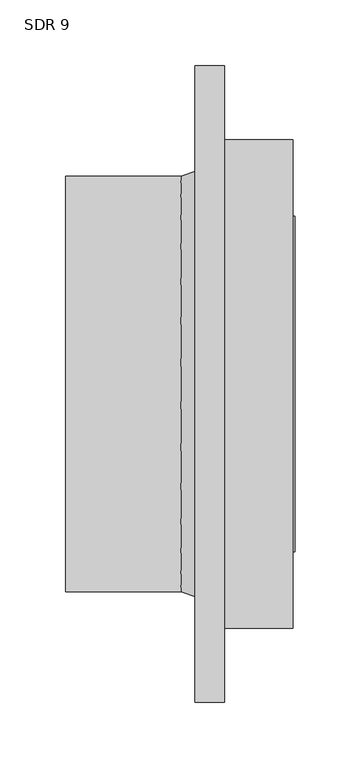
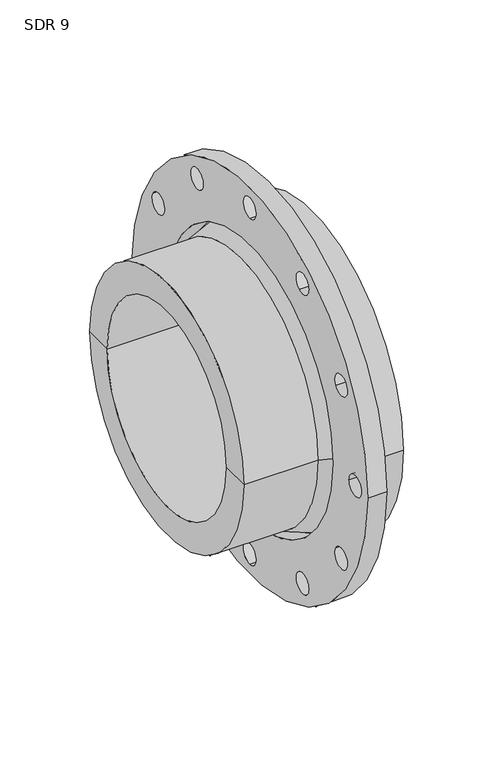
"""IFC4 building model written with IfcOpenShell, lengths in millimetres: valve geometry, Aquatherm - Flange Adapter Butt-Weld : SDR 9."""

from ifc_helpers import new_model, si_unit, point, frame, frame_2d, origin, origin_2d, place, context, project, spatial, polyline, circle_curve, trimmed, segment, composite_curve, outline, extrude, source, transform, mapped, element, save
from ifc_brep_helpers import plane_surface, cylinder_surface, revolved_surface, advanced_brep


def sdr_9_f56acaa7(model_context):
    return source(origin(), model_context, "Body", "SolidModel", [
        extrude(outline(composite_curve([segment(trimmed(circle_curve(origin_2d(), 241.3), [point((-241.3, 0.0))], [point((241.3, 0.0))], False, "CARTESIAN"), True, "CONTINUOUS"), segment(trimmed(circle_curve(origin_2d(), 241.3), [point((241.3, 0.0))], [point((-241.3, 0.0))], False, "CARTESIAN"), True, "CONTINUOUS")], self_intersect=False), holes=[composite_curve([segment(trimmed(circle_curve(origin_2d(), 170.18), [point((-170.18, 0.0))], [point((170.18, 0.0))], True, "CARTESIAN"), True, "CONTINUOUS"), segment(trimmed(circle_curve(origin_2d(), 170.18), [point((170.18, 0.0))], [point((-170.18, 0.0))], True, "CARTESIAN"), True, "CONTINUOUS")], self_intersect=False), composite_curve([segment(trimmed(circle_curve(frame_2d((215.9, 0.0)), 12.7), [point((203.2, 0.0))], [point((228.6, 0.0))], True, "CARTESIAN"), True, "CONTINUOUS"), segment(trimmed(circle_curve(frame_2d((215.9, 0.0)), 12.7), [point((228.6, 0.0))], [point((203.2, 0.0))], True, "CARTESIAN"), True, "CONTINUOUS")], self_intersect=False), composite_curve([segment(trimmed(circle_curve(frame_2d((186.9748847, -107.95)), 12.7), [point((175.976362, -101.6))], [point((197.9734073, -114.3))], True, "CARTESIAN"), True, "CONTINUOUS"), segment(trimmed(circle_curve(frame_2d((186.9748847, -107.95)), 12.7), [point((197.9734073, -114.3))], [point((175.976362, -101.6))], True, "CARTESIAN"), True, "CONTINUOUS")], self_intersect=False), composite_curve([segment(trimmed(circle_curve(frame_2d((186.9748847, 107.95)), 12.7), [point((175.976362, 101.6))], [point((197.9734073, 114.3))], True, "CARTESIAN"), True, "CONTINUOUS"), segment(trimmed(circle_curve(frame_2d((186.9748847, 107.95)), 12.7), [point((197.9734073, 114.3))], [point((175.976362, 101.6))], True, "CARTESIAN"), True, "CONTINUOUS")], self_intersect=False), composite_curve([segment(trimmed(circle_curve(frame_2d((107.95, 186.9748847)), 12.7), [point((101.6, 175.976362))], [point((114.3, 197.9734073))], True, "CARTESIAN"), True, "CONTINUOUS"), segment(trimmed(circle_curve(frame_2d((107.95, 186.9748847)), 12.7), [point((114.3, 197.9734073))], [point((101.6, 175.976362))], True, "CARTESIAN"), True, "CONTINUOUS")], self_intersect=False), composite_curve([segment(trimmed(circle_curve(frame_2d((0.0, 215.9)), 12.7), [point((0.0, 203.2))], [point((0.0, 228.6))], True, "CARTESIAN"), True, "CONTINUOUS"), segment(trimmed(circle_curve(frame_2d((0.0, 215.9)), 12.7), [point((0.0, 228.6))], [point((0.0, 203.2))], True, "CARTESIAN"), True, "CONTINUOUS")], self_intersect=False), composite_curve([segment(trimmed(circle_curve(frame_2d((-107.95, 186.9748847)), 12.7), [point((-101.6, 175.976362))], [point((-114.3, 197.9734073))], True, "CARTESIAN"), True, "CONTINUOUS"), segment(trimmed(circle_curve(frame_2d((-107.95, 186.9748847)), 12.7), [point((-114.3, 197.9734073))], [point((-101.6, 175.976362))], True, "CARTESIAN"), True, "CONTINUOUS")], self_intersect=False), composite_curve([segment(trimmed(circle_curve(frame_2d((-186.9748847, 107.95)), 12.7), [point((-175.976362, 101.6))], [point((-197.9734073, 114.3))], True, "CARTESIAN"), True, "CONTINUOUS"), segment(trimmed(circle_curve(frame_2d((-186.9748847, 107.95)), 12.7), [point((-197.9734073, 114.3))], [point((-175.976362, 101.6))], True, "CARTESIAN"), True, "CONTINUOUS")], self_intersect=False), composite_curve([segment(trimmed(circle_curve(frame_2d((-215.9, 0.0)), 12.7), [point((-203.2, 0.0))], [point((-228.6, 0.0))], True, "CARTESIAN"), True, "CONTINUOUS"), segment(trimmed(circle_curve(frame_2d((-215.9, 0.0)), 12.7), [point((-228.6, 0.0))], [point((-203.2, 0.0))], True, "CARTESIAN"), True, "CONTINUOUS")], self_intersect=False), composite_curve([segment(trimmed(circle_curve(frame_2d((-186.9748847, -107.95)), 12.7), [point((-175.976362, -101.6))], [point((-197.9734073, -114.3))], True, "CARTESIAN"), True, "CONTINUOUS"), segment(trimmed(circle_curve(frame_2d((-186.9748847, -107.95)), 12.7), [point((-197.9734073, -114.3))], [point((-175.976362, -101.6))], True, "CARTESIAN"), True, "CONTINUOUS")], self_intersect=False), composite_curve([segment(trimmed(circle_curve(frame_2d((-107.95, -186.9748847)), 12.7), [point((-101.6, -175.976362))], [point((-114.3, -197.9734073))], True, "CARTESIAN"), True, "CONTINUOUS"), segment(trimmed(circle_curve(frame_2d((-107.95, -186.9748847)), 12.7), [point((-114.3, -197.9734073))], [point((-101.6, -175.976362))], True, "CARTESIAN"), True, "CONTINUOUS")], self_intersect=False), composite_curve([segment(trimmed(circle_curve(frame_2d((0.0, -215.9)), 12.7), [point((0.0, -203.2))], [point((0.0, -228.6))], True, "CARTESIAN"), True, "CONTINUOUS"), segment(trimmed(circle_curve(frame_2d((0.0, -215.9)), 12.7), [point((0.0, -228.6))], [point((0.0, -203.2))], True, "CARTESIAN"), True, "CONTINUOUS")], self_intersect=False), composite_curve([segment(trimmed(circle_curve(frame_2d((107.95, -186.9748847)), 12.7), [point((101.6, -175.976362))], [point((114.3, -197.9734073))], True, "CARTESIAN"), True, "CONTINUOUS"), segment(trimmed(circle_curve(frame_2d((107.95, -186.9748847)), 12.7), [point((114.3, -197.9734073))], [point((101.6, -175.976362))], True, "CARTESIAN"), True, "CONTINUOUS")], self_intersect=False)]), frame((-22.352, 0.0, 0.0), z_axis=(1.0, 0.0, 0.0), x_axis=(0.0, 1.0, 0.0)), (0.0, 0.0, 1.0), 22.352),
        advanced_brep(
        [(52.07, 185.42, 0.0), (52.07, -185.42, 0.0), (0.0, -185.42, 0.0), (0.0, 185.42, 0.0), (53.6575, 122.174, 0.0), (53.6575, -122.174, 0.0), (53.6575, -127.254, 0.0), (53.6575, 127.254, 0.0), (-120.396, 122.174, 0.0), (-120.396, -122.174, 0.0), (-120.396, 157.48, 0.0), (-120.396, -157.48, 0.0), (-33.02, 157.48, 0.0), (-33.02, -157.48, 0.0), (0.0, -168.91, 0.0), (0.0, 168.91, 0.0), (52.07, 127.254, 0.0), (52.07, -127.254, 0.0)],
        [
            (0, 1, circle_curve(frame((52.07, 0.0, 0.0), z_axis=(-1.0, 0.0, 0.0), x_axis=(0.0, -1.0, 0.0)), 185.42)),
            (1, 2),
            (2, 3, circle_curve(frame((0.0, 0.0, 0.0), z_axis=(1.0, 0.0, 0.0), x_axis=(0.0, -1.0, 0.0)), 185.42)),
            (3, 0),
            (1, 0, circle_curve(frame((52.07, 0.0, 0.0), z_axis=(-1.0, 0.0, 0.0), x_axis=(0.0, -1.0, 0.0)), 185.42)),
            (3, 2, circle_curve(frame((0.0, 0.0, 0.0), z_axis=(1.0, 0.0, 0.0), x_axis=(0.0, -1.0, 0.0)), 185.42)),
            (4, 5, circle_curve(frame((53.6575, 0.0, 0.0), z_axis=(-1.0, 0.0, 0.0), x_axis=(0.0, -1.0, 0.0)), 122.174)),
            (5, 6),
            (6, 7, circle_curve(frame((53.6575, 0.0, 0.0), z_axis=(1.0, 0.0, 0.0), x_axis=(0.0, -1.0, 0.0)), 127.254)),
            (7, 4),
            (5, 4, circle_curve(frame((53.6575, 0.0, 0.0), z_axis=(-1.0, 0.0, 0.0), x_axis=(0.0, -1.0, 0.0)), 122.174)),
            (7, 6, circle_curve(frame((53.6575, 0.0, 0.0), z_axis=(1.0, 0.0, 0.0), x_axis=(0.0, -1.0, 0.0)), 127.254)),
            (8, 9, circle_curve(frame((-120.396, 0.0, 0.0), z_axis=(-1.0, 0.0, 0.0), x_axis=(0.0, -1.0, 0.0)), 122.174)),
            (9, 5),
            (4, 8),
            (9, 8, circle_curve(frame((-120.396, 0.0, 0.0), z_axis=(-1.0, 0.0, 0.0), x_axis=(0.0, -1.0, 0.0)), 122.174)),
            (10, 11, circle_curve(frame((-120.396, 0.0, 0.0), z_axis=(-1.0, 0.0, 0.0), x_axis=(0.0, -1.0, 0.0)), 157.48)),
            (11, 9),
            (8, 10),
            (11, 10, circle_curve(frame((-120.396, 0.0, 0.0), z_axis=(-1.0, 0.0, 0.0), x_axis=(0.0, -1.0, 0.0)), 157.48)),
            (12, 13, circle_curve(frame((-33.02, 0.0, 0.0), z_axis=(-1.0, 0.0, 0.0), x_axis=(0.0, -1.0, 0.0)), 157.48)),
            (13, 11),
            (10, 12),
            (13, 12, circle_curve(frame((-33.02, 0.0, 0.0), z_axis=(-1.0, 0.0, 0.0), x_axis=(0.0, -1.0, 0.0)), 157.48)),
            (2, 14),
            (14, 15, circle_curve(frame((0.0, 0.0, 0.0), z_axis=(1.0, 0.0, 0.0), x_axis=(0.0, -1.0, 0.0)), 168.91)),
            (15, 3),
            (15, 14, circle_curve(frame((0.0, 0.0, 0.0), z_axis=(1.0, 0.0, 0.0), x_axis=(0.0, -1.0, 0.0)), 168.91)),
            (16, 17, circle_curve(frame((52.07, 0.0, 0.0), z_axis=(-1.0, 0.0, 0.0), x_axis=(0.0, -1.0, 0.0)), 127.254)),
            (17, 1),
            (0, 16),
            (17, 16, circle_curve(frame((52.07, 0.0, 0.0), z_axis=(-1.0, 0.0, 0.0), x_axis=(0.0, -1.0, 0.0)), 127.254)),
            (6, 17),
            (16, 7),
            (14, 13),
            (12, 15),
        ],
        [
            cylinder_surface(frame((1492.7089321, 0.0, 0.0), z_axis=(1.0, 0.0, 0.0), x_axis=(0.0, -1.0, 0.0)), 185.42),
            plane_surface(frame((53.6575, 0.0, 0.0), z_axis=(1.0, 0.0, 0.0), x_axis=(0.0, -1.0, 0.0))),
            revolved_surface(polyline([(53.65750000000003, -122.174, 0.0), (-120.39599999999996, -122.174, 0.0)]), (1492.7089321, 0.0, 0.0), (1.0, 0.0, 0.0)),
            plane_surface(frame((-120.396, 0.0, 0.0), z_axis=(-1.0, 0.0, 0.0), x_axis=(0.0, -1.0, 0.0))),
            cylinder_surface(frame((1492.7089321, 0.0, 0.0), z_axis=(1.0, 0.0, 0.0), x_axis=(0.0, -1.0, 0.0)), 157.48),
            plane_surface(frame((0.0, 0.0, 0.0), z_axis=(-1.0, 0.0, 0.0), x_axis=(0.0, -1.0, 0.0))),
            plane_surface(frame((52.07, 0.0, 0.0), z_axis=(1.0, 0.0, 0.0), x_axis=(0.0, -1.0, 0.0))),
            cylinder_surface(frame((1492.7089321, 0.0, 0.0), z_axis=(1.0, 0.0, 0.0), x_axis=(0.0, -1.0, 0.0)), 127.254),
            revolved_surface(polyline([(-33.02, -157.48, 0.0), (0.0, -168.91, 0.0)]), (1492.7089321, 0.0, 0.0), (1.0, 0.0, 0.0)),
        ],
        [
            (0, [[1, 2, 3, 4]]),
            (0, [[5, -4, 6, -2]]),
            (1, [[7, 8, 9, 10]]),
            (1, [[11, -10, 12, -8]]),
            (2, [[13, 14, -7, 15]]),
            (2, [[16, -15, -11, -14]]),
            (3, [[17, 18, -13, 19]]),
            (3, [[20, -19, -16, -18]]),
            (4, [[21, 22, -17, 23]]),
            (4, [[24, -23, -20, -22]]),
            (5, [[-3, 25, 26, 27]]),
            (5, [[-6, -27, 28, -25]]),
            (6, [[29, 30, -1, 31]]),
            (6, [[32, -31, -5, -30]]),
            (7, [[-9, 33, -29, 34]]),
            (7, [[-12, -34, -32, -33]]),
            (8, [[-26, 35, -21, 36]]),
            (8, [[-28, -36, -24, -35]]),
        ],
    ),
    ])


if __name__ == "__main__":
    model = new_model("IFC4")
    model_context = context("Model", 3, world=origin())
    ifc_project = project(units=[si_unit("LENGTHUNIT", "METRE", prefix="MILLI")], contexts=[model_context])
    site = spatial("IfcSite", under=ifc_project)
    building = spatial("IfcBuilding", under=site)
    placement = place(None, origin())
    sdr_9_shape = sdr_9_f56acaa7(model_context)
    element("IfcValve", 1, ObjectType="Aquatherm - Flange Adapter Butt-Weld : SDR 9", at=placement, inside=building, context=model_context, shape_type="MappedRepresentation", body=[
        mapped(sdr_9_shape, transform((0.0, 0.0, 0.0), x_axis=(1.0, 0.0, 0.0), y_axis=(0.0, 1.0, 0.0), z_axis=(0.0, 0.0, 1.0))),
    ])
    save(model, "model.ifc")
